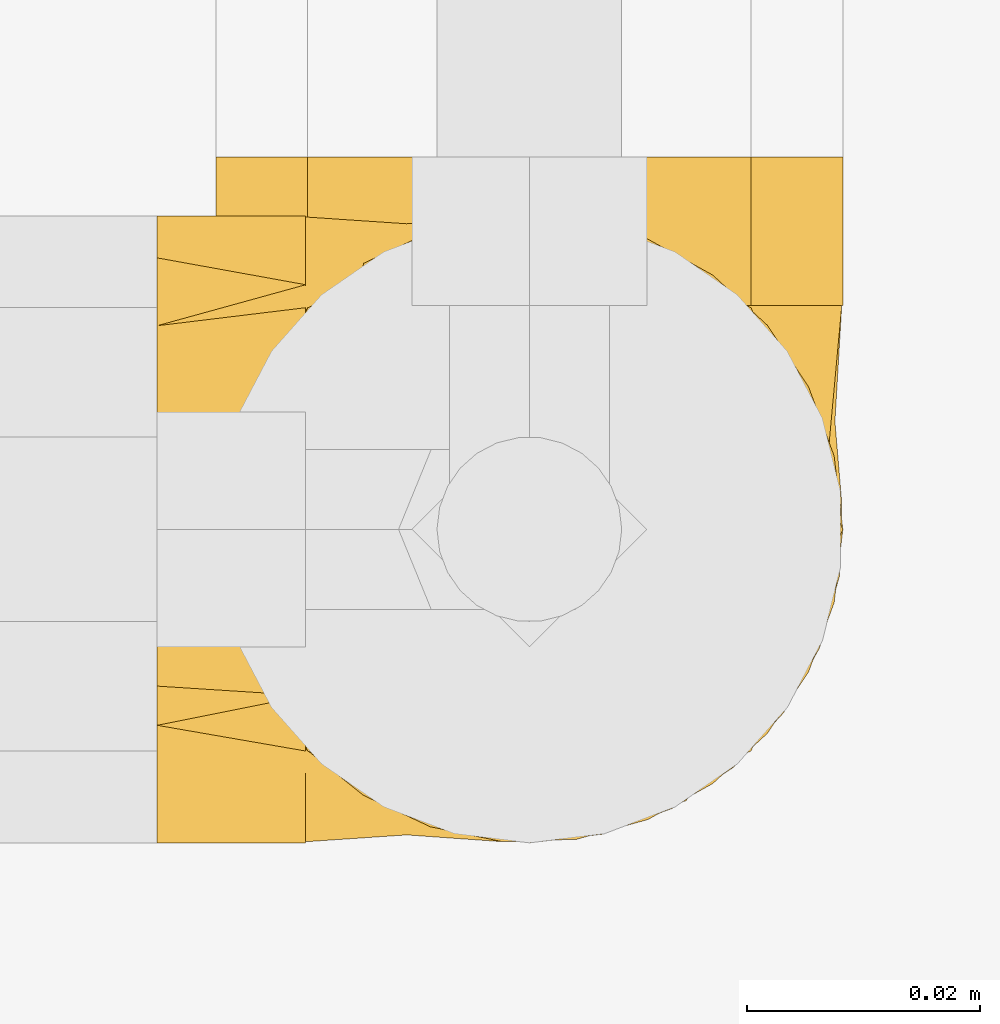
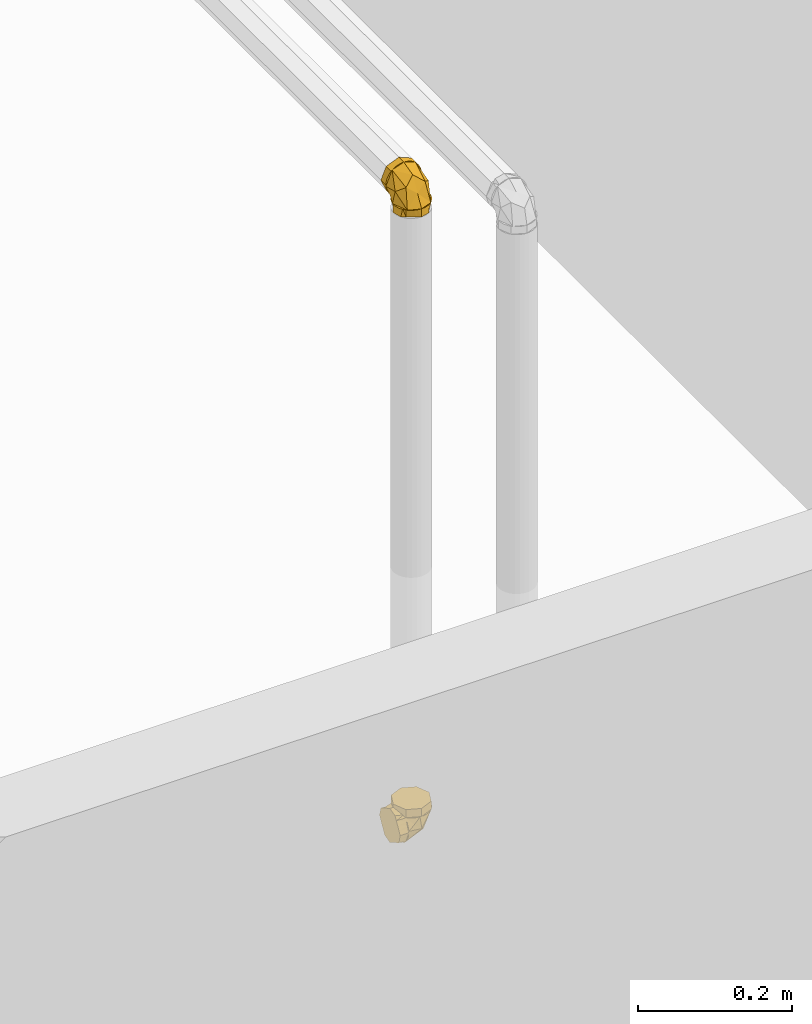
# One storey, part 356 of 652: 2 coverings.
"""IFC2X3 building model written with IfcOpenShell, lengths in millimetres."""

from ifc_helpers import new_model, entity, si_unit, converted_unit, direction, frame, origin, place, context, subcontext, project, spatial, face_set, surface_model, material, type_object, element, save


model = new_model("IFC2X3")

# Units and contexts
model_context = context("Model", 3, precision=0.01, world=frame((0.0, 0.0, 308426.39999999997)), true_north=direction((6.123233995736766e-17, 1.0)))
plan_context = context("Plan", 3, precision=0.01, world=frame((0.0, 0.0, 308426.39999999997)), true_north=direction((6.123233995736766e-17, 1.0)))
body_context = subcontext(model_context, "Body", "Model", "MODEL_VIEW")
ifc_project = project(units=[si_unit("LENGTHUNIT", "METRE", prefix="MILLI"), si_unit("AREAUNIT", "SQUARE_METRE"), si_unit("VOLUMEUNIT", "CUBIC_METRE"), converted_unit("PLANEANGLEUNIT", "DEGREE", entity("IfcPlaneAngleMeasure", 0.017453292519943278), si_unit("PLANEANGLEUNIT", "RADIAN"), dimensions=[0, 0, 0, 0, 0, 0, 0])], contexts=[model_context, plan_context])

# Site, building, storey
site_placement = place(None, origin())
site = spatial("IfcSite", under=ifc_project, at=site_placement, Name="Default", CompositionType="ELEMENT")
building_placement = place(site_placement, origin())
building = spatial("IfcBuilding", under=site, at=building_placement, CompositionType="ELEMENT")
storey_placement = place(building_placement, frame((0.0, 0.0, 1730.6999999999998)))
storey = spatial("IfcBuildingStorey", under=building, at=storey_placement, Name="EG_Produktion_FFB", CompositionType="ELEMENT", Elevation=1730.6999999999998)

# Coverings
ifc_material = material(Name="Dämmung - Armaflex-Schlauch")
covering_type = type_object("IfcCoveringType", Name="Rohrdämmung außen:Armaflex-Schlauch", PredefinedType="INSULATION")
covering_1_placement = place(storey_placement, frame((63571.46722776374, 31973.503785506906, 3668.0162499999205)))
element("IfcCovering", 1, at=covering_1_placement, inside=storey, type_object=covering_type, material=ifc_material, Name="Rohrdämmung außen:Armaflex-Schlauch", ObjectType="Rohrdämmung außen:Armaflex-Schlauch", PredefinedType="INSULATION", context=body_context, shape_type="SurfaceModel", body=[
    surface_model("IfcFaceBasedSurfaceModel", [(9.65642195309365, 47.75027223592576, 12.766249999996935), (51.38658262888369, 47.75027223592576, 17.724287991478), (54.0915642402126, 47.75027223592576, 23.47627931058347), (55.37345654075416, 47.75027223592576, 29.70195853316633), (55.16088498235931, 47.7502722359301, 36.05468574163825), (53.465685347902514, 47.7502722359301, 42.180747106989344), (50.38224474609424, 47.7502722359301, 47.739049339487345), (46.08224622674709, 47.7502722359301, 52.42011143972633), (40.8051096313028, 47.7502722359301, 55.96329630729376), (34.844660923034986, 47.7502722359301, 58.17132276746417), (28.532772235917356, 47.7502722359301, 58.92124999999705), (22.220883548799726, 47.7502722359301, 58.17132276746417), (16.26043484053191, 47.7502722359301, 55.96329630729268), (10.983298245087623, 47.7502722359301, 52.42011143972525), (6.683299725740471, 47.7502722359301, 47.739049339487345), (3.599859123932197, 47.7502722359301, 42.180747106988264), (1.904659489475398, 47.7502722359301, 36.05468574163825), (1.6920879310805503, 47.75027223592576, 29.70195853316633), (2.973980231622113, 47.75027223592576, 23.47627931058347), (5.678961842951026, 47.75027223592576, 17.72428799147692), (47.409122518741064, 47.75027223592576, 12.766249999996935), (51.38658262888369, 42.79223424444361, 12.766249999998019), (54.0915642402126, 37.04024292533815, 12.766249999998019), (55.37345654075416, 30.81456370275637, 12.7662499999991), (55.16088498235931, 24.461836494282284, 12.766250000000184), (53.465685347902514, 18.33577512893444, 12.766250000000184), (50.38224474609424, 12.77747289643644, 12.766250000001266), (46.08224622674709, 8.09641079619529, 12.766250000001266), (40.8051096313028, 4.553225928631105, 12.76625000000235), (34.844660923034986, 2.3451994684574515, 12.76625000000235), (28.532772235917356, 1.5952722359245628, 12.76625000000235), (22.220883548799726, 2.3451994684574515, 12.76625000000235), (16.26043484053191, 4.553225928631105, 12.76625000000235), (10.983298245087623, 8.09641079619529, 12.766250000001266), (6.683299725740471, 12.77747289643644, 12.766250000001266), (3.599859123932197, 18.33577512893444, 12.766250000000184), (1.904659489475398, 24.461836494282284, 12.766250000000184), (1.6920879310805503, 30.81456370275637, 12.7662499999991), (2.973980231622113, 37.04024292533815, 12.766249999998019), (5.678961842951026, 42.79223424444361, 12.766249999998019), (2.2755578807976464, 37.80739613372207, 21.44709533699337), (28.534420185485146, 24.67331410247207, 52.737627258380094), (6.335775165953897, 47.75097523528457, 41.06101440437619), (3.6010583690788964, 26.949919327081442, 33.56554168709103), (14.284127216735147, 17.331901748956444, 41.841780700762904), (28.534420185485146, 12.139195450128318, 31.030231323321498), (6.335775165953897, 19.455027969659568, 12.766229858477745), (42.780062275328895, 17.331901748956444, 41.841780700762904), (53.4677820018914, 26.95224476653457, 33.56554168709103), (54.788631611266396, 37.80739613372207, 21.44709533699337), (50.72841432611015, 19.455027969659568, 12.766229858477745), (50.72841432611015, 47.75097523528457, 41.06101440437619), (28.532772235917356, 60.51652223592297, 58.92125000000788), (33.29469446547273, 60.516522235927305, 56.94879722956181), (38.05661669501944, 60.516522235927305, 54.97634445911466), (42.818538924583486, 60.51652223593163, 53.0038916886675), (47.5804611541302, 60.51652223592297, 51.03143891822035), (49.552913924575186, 60.516522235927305, 46.26951668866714), (51.525366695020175, 60.516522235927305, 41.50759445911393), (53.497819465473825, 60.516522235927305, 36.74567222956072), (55.47027223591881, 60.516522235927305, 31.98375000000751), (53.49781946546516, 60.516522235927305, 27.2218277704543), (51.525366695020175, 60.516522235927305, 22.45990554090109), (49.552913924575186, 60.516522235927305, 17.69798331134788), (47.5804611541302, 60.51652223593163, 12.936061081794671), (42.81853892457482, 60.51652223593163, 10.963608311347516), (38.05661669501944, 60.51652223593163, 8.991155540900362), (33.29469446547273, 60.51652223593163, 7.018702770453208), (28.532772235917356, 60.51652223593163, 5.046250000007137), (23.77085000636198, 60.51652223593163, 7.018702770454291), (19.008927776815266, 60.51652223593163, 8.991155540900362), (14.247005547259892, 60.516522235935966, 10.963608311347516), (9.485083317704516, 60.51652223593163, 12.936061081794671), (7.512630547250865, 60.516522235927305, 17.69798331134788), (5.54017777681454, 60.516522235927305, 22.45990554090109), (3.567725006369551, 60.51652223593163, 27.2218277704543), (1.5952722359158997, 60.516522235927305, 31.98375000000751), (3.567725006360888, 60.516522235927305, 36.74567222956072), (5.54017777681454, 60.516522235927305, 41.50759445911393), (7.512630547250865, 60.51652223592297, 46.26951668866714), (9.485083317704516, 60.51652223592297, 51.03143891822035), (14.247005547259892, 60.516522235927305, 53.0038916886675), (19.008927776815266, 60.516522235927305, 54.97634445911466), (23.77085000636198, 60.51652223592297, 56.94879722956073), (28.532772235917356, 47.750272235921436, 58.92125000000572), (23.77085000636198, 47.750272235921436, 56.94879722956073), (19.008927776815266, 47.750272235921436, 54.97634445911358), (14.247005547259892, 47.7502722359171, 53.00389168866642), (9.485083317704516, 47.750272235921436, 51.031438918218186), (7.095738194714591, 47.750272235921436, 45.26304951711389), (4.706393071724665, 47.750272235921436, 39.49466011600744), (1.5952722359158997, 47.75027223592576, 31.983750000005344), (3.567725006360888, 47.75027223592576, 27.221827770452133), (5.54017777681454, 47.75027223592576, 22.459905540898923), (7.512630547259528, 47.7502722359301, 17.697983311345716), (9.485083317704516, 47.7502722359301, 12.936061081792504), (15.253472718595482, 47.7502722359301, 10.546715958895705), (21.021862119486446, 47.7502722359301, 8.157370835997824), (28.532772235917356, 47.7502722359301, 5.046250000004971), (33.29469446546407, 47.7502722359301, 7.018702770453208), (38.05661669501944, 47.7502722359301, 8.991155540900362), (42.818538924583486, 47.7502722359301, 10.963608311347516), (47.5804611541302, 47.7502722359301, 12.936061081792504), (49.96980627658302, 47.7502722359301, 18.704450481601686), (52.359151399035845, 47.75027223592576, 24.472839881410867), (55.47027223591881, 47.75027223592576, 31.983750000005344), (53.497819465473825, 47.75027223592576, 36.74567222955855), (51.525366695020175, 47.75027223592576, 41.507594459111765), (49.552913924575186, 47.750272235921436, 46.26951668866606), (47.5804611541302, 47.750272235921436, 51.031438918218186), (41.81207177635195, 47.750272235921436, 53.420784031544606), (36.0436823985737, 47.750272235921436, 55.81012914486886), (28.532772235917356, 1.5952722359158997, 0.0), (22.700632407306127, 4.962459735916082, 0.0), (16.868492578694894, 8.329647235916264, 0.0), (11.036352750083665, 11.696834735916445, 0.0), (5.204212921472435, 15.064022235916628, 0.0), (3.3997425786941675, 21.79839723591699, 0.0), (1.5952722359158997, 28.532772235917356, 0.0), (4.962459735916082, 34.36491206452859, 0.0), (8.329647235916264, 40.197051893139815, 0.0), (11.696834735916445, 46.02919172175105, 0.0), (15.064022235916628, 51.86133155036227, 0.0), (21.79839723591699, 53.66580189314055, 0.0), (28.532772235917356, 55.47027223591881, 0.0), (34.36491206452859, 52.10308473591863, 0.0), (40.197051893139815, 48.73589723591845, 0.0), (46.02919172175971, 45.368709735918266, 0.0), (51.86133155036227, 42.00152223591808, 0.0), (53.66580189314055, 35.26714723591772, 0.0), (55.47027223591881, 28.532772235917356, 0.0), (52.10308473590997, 22.700632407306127, 0.0), (48.73589723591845, 16.868492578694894, 0.0), (45.36870973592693, 11.036352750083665, 0.0), (42.00152223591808, 5.204212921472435, 0.0), (35.26714723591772, 3.3997425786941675, 0.0), (28.532772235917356, 1.5952722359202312, 12.7662499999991), (33.29469446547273, 3.567725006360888, 12.7662499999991), (38.05661669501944, 5.540177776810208, 12.7662499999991), (42.81853892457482, 7.512630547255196, 12.7662499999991), (47.5804611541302, 9.485083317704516, 12.7662499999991), (49.552913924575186, 14.24700554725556, 12.7662499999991), (51.525366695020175, 19.008927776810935, 12.7662499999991), (53.497819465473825, 23.77085000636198, 12.7662499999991), (55.47027223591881, 28.532772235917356, 12.7662499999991), (53.497819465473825, 33.29469446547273, 12.7662499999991), (51.525366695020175, 38.05661669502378, 12.7662499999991), (49.55291392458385, 42.81853892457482, 12.7662499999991), (47.5804611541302, 47.5804611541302, 12.7662499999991), (42.81853892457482, 49.552913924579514, 12.7662499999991), (38.05661669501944, 51.5253666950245, 12.7662499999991), (33.29469446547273, 53.497819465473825, 12.7662499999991), (28.532772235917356, 55.47027223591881, 12.7662499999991), (23.770850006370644, 53.497819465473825, 12.7662499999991), (19.008927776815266, 51.5253666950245, 12.7662499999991), (14.247005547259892, 49.552913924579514, 12.7662499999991), (9.485083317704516, 47.5804611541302, 12.7662499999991), (7.512630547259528, 42.81853892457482, 12.7662499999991), (5.54017777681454, 38.05661669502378, 12.7662499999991), (3.567725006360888, 33.29469446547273, 12.7662499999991), (1.5952722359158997, 28.532772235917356, 12.7662499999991), (3.567725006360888, 23.77085000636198, 12.7662499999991), (5.54017777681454, 19.008927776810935, 12.7662499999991), (7.512630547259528, 14.24700554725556, 12.7662499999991), (9.485083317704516, 9.485083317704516, 12.7662499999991), (14.247005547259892, 7.512630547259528, 12.7662499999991), (19.008927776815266, 5.540177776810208, 12.7662499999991), (23.77085000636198, 3.567725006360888, 12.7662499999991)], [face_set([[[0, 1, 2, 3, 4, 5, 6, 7, 8, 9, 10, 11, 12, 13, 14, 15, 16, 17, 18, 19]], [[20, 21, 22, 23, 24, 25, 26, 27, 28, 29, 30, 31, 32, 33, 34, 35, 36, 37, 38, 39]], [[0, 40, 17]], [[10, 13, 41]], [[42, 17, 43]], [[40, 43, 17]], [[37, 40, 0]], [[13, 43, 44]], [[45, 41, 44]], [[13, 44, 41]], [[33, 30, 45]], [[45, 44, 33]], [[43, 33, 44]], [[43, 37, 46]], [[43, 13, 42]], [[37, 43, 40]], [[46, 33, 43]], [[7, 10, 41]], [[27, 47, 45]], [[45, 30, 27]], [[48, 47, 27]], [[49, 48, 23]], [[50, 23, 48, 27]], [[45, 47, 41]], [[20, 49, 23]], [[47, 48, 7]], [[3, 49, 20]], [[41, 47, 7]], [[48, 3, 51, 7]], [[3, 48, 49]]]), face_set([[[52, 53, 54, 55, 56, 57, 58, 59, 60, 61, 62, 63, 64, 65, 66, 67, 68, 69, 70, 71, 72, 73, 74, 75, 76, 77, 78, 79, 80, 81, 82, 83]], [[84, 85, 86, 87, 88, 89, 90, 91, 92, 93, 94, 95, 96, 97, 98, 99, 100, 101, 102, 103, 104, 105, 106, 107, 108, 109, 110, 111]], [[111, 110, 109, 56, 55, 54, 53, 52, 84]], [[56, 109, 108, 107, 106, 105, 60, 59, 58, 57]], [[104, 103, 102, 64, 63, 62, 61, 60, 105]], [[64, 102, 101, 100, 99, 98, 68, 67, 66, 65]], [[97, 96, 95, 72, 71, 70, 69, 68, 98]], [[72, 95, 94, 93, 92, 91, 76, 75, 74, 73]], [[90, 89, 88, 80, 79, 78, 77, 76, 91]], [[80, 88, 87, 86, 85, 84, 52, 83, 82, 81]]]), face_set([[[112, 113, 114, 115, 116, 117, 118, 119, 120, 121, 122, 123, 124, 125, 126, 127, 128, 129, 130, 131, 132, 133, 134, 135]], [[136, 137, 138, 139, 140, 141, 142, 143, 144, 145, 146, 147, 148, 149, 150, 151, 152, 153, 154, 155, 156, 157, 158, 159, 160, 161, 162, 163, 164, 165, 166, 167]], [[155, 121, 156]], [[118, 159, 119]], [[159, 158, 119]], [[123, 154, 153]], [[153, 152, 124]], [[121, 155, 122]], [[120, 158, 157]], [[118, 160, 159]], [[158, 120, 119]], [[124, 123, 153]], [[157, 156, 121]], [[155, 154, 122]], [[123, 122, 154]], [[120, 157, 121]], [[163, 115, 164]], [[112, 167, 113]], [[167, 166, 113]], [[117, 162, 161]], [[161, 160, 118]], [[115, 163, 116]], [[114, 166, 165]], [[112, 136, 167]], [[166, 114, 113]], [[118, 117, 161]], [[165, 164, 115]], [[163, 162, 116]], [[117, 116, 162]], [[114, 165, 115]], [[139, 133, 140]], [[130, 143, 131]], [[143, 142, 131]], [[135, 138, 137]], [[137, 136, 112]], [[133, 139, 134]], [[132, 142, 141]], [[130, 144, 143]], [[142, 132, 131]], [[112, 135, 137]], [[141, 140, 133]], [[139, 138, 134]], [[135, 134, 138]], [[132, 141, 133]], [[147, 127, 148]], [[124, 151, 125]], [[151, 150, 125]], [[129, 146, 145]], [[145, 144, 130]], [[127, 147, 128]], [[126, 150, 149]], [[124, 152, 151]], [[150, 126, 125]], [[130, 129, 145]], [[149, 148, 127]], [[147, 146, 128]], [[129, 128, 146]], [[126, 149, 127]]])]),
])
covering_2_placement = place(storey_placement, frame((63568.016249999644, 31973.503785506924, 2671.467227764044)))
element("IfcCovering", 2, at=covering_2_placement, inside=storey, type_object=covering_type, material=ifc_material, Name="Rohrdämmung außen:Armaflex-Schlauch", ObjectType="Rohrdämmung außen:Armaflex-Schlauch", PredefinedType="INSULATION", context=body_context, shape_type="SurfaceModel", body=[
    surface_model("IfcFaceBasedSurfaceModel", [(12.766249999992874, 9.65642195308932, 47.750272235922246), (17.724287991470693, 5.678961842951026, 47.750272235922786), (23.47627931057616, 2.973980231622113, 47.750272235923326), (29.70195853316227, 1.6920879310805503, 47.75027223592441), (36.054685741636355, 1.9046594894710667, 47.75027223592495), (42.1807471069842, 3.5998591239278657, 47.75027223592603), (47.7390493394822, 6.683299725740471, 47.75027223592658), (52.420111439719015, 10.983298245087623, 47.75027223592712), (55.963296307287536, 16.26043484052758, 47.75027223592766), (58.17132276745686, 22.220883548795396, 47.75027223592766), (58.921249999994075, 28.532772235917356, 47.75027223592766), (58.17132276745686, 34.84466092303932, 47.75027223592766), (55.963296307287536, 40.80510963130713, 47.75027223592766), (52.420111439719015, 46.08224622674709, 47.75027223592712), (47.7390493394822, 50.38224474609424, 47.75027223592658), (42.1807471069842, 53.46568534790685, 47.75027223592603), (36.054685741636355, 55.16088498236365, 47.75027223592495), (29.70195853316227, 55.37345654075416, 47.75027223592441), (23.47627931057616, 54.0915642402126, 47.750272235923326), (17.724287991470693, 51.38658262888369, 47.750272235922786), (12.766249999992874, 47.40912251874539, 47.750272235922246), (12.766249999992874, 51.38658262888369, 42.79223424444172), (12.766249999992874, 54.0915642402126, 37.04024292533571), (12.766249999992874, 55.37345654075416, 30.81456370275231), (12.766249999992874, 55.16088498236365, 24.46183649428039), (12.766249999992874, 53.46568534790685, 18.33577512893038), (12.766249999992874, 50.38224474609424, 12.777472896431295), (12.766250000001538, 46.08224622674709, 8.096410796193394), (12.766250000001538, 40.80510963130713, 4.553225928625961), (12.766250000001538, 34.84466092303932, 2.3451994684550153), (12.766250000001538, 28.532772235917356, 1.5952722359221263), (12.766250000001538, 22.220883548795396, 2.3451994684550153), (12.766250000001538, 16.26043484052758, 4.553225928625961), (12.766250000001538, 10.983298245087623, 8.096410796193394), (12.766249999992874, 6.683299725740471, 12.777472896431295), (12.766249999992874, 3.5998591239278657, 18.33577512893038), (12.766249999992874, 1.9046594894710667, 24.46183649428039), (12.766249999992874, 1.6920879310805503, 30.81456370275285), (12.766249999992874, 2.973980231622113, 37.04024292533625), (12.766249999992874, 5.678961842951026, 42.79223424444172), (21.446506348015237, 2.277006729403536, 37.807400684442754), (52.73761962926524, 28.533543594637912, 24.672737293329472), (33.56669677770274, 3.600181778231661, 26.951086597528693), (41.059262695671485, 6.337224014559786, 47.75039842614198), (31.031967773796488, 28.533543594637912, 12.139781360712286), (41.84061035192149, 14.285576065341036, 17.332487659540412), (12.767966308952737, 6.337224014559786, 19.455613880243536), (41.84061035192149, 42.77918568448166, 17.332487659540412), (33.56669677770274, 53.464579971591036, 26.951086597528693), (21.446506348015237, 54.790080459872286, 37.807400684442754), (12.767966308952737, 50.72753773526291, 19.455613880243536), (41.059262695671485, 50.72753773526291, 47.75039842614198), (58.921250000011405, 28.532772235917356, 60.5165222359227), (56.948797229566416, 33.29469446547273, 60.51652223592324), (54.97634445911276, 38.05661669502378, 60.51652223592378), (53.00389168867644, 42.81853892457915, 60.51652223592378), (51.03143891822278, 47.5804611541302, 60.51652223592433), (46.26951668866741, 49.552913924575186, 60.51652223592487), (41.507594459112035, 51.5253666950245, 60.51652223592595), (36.74567222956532, 53.497819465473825, 60.51652223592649), (31.983750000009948, 55.47027223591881, 60.516522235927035), (27.22182777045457, 53.49781946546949, 60.516522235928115), (22.459905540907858, 51.5253666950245, 60.516522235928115), (17.697983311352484, 49.552913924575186, 60.516522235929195), (12.936061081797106, 47.5804611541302, 60.51652223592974), (10.963608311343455, 42.81853892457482, 60.51652223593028), (8.99115554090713, 38.05661669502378, 60.51652223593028), (7.018702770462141, 33.29469446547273, 60.51652223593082), (5.046250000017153, 28.532772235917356, 60.51652223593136), (7.018702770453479, 23.77085000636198, 60.51652223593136), (8.99115554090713, 19.008927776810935, 60.51652223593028), (10.963608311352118, 14.247005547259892, 60.51652223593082), (12.936061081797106, 9.485083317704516, 60.51652223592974), (17.69798331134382, 7.512630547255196, 60.516522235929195), (22.459905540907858, 5.540177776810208, 60.516522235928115), (27.221827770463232, 3.5677250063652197, 60.516522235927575), (31.983750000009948, 1.5952722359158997, 60.516522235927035), (36.74567222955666, 3.567725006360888, 60.51652223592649), (41.507594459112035, 5.540177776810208, 60.51652223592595), (46.26951668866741, 7.512630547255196, 60.51652223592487), (51.03143891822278, 9.485083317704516, 60.51652223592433), (53.00389168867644, 14.247005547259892, 60.51652223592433), (54.97634445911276, 19.008927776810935, 60.51652223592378), (56.94879722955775, 23.77085000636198, 60.5165222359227), (58.92125000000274, 28.532772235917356, 47.75027223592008), (56.94879722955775, 23.77085000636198, 47.750272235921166), (54.97634445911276, 19.008927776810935, 47.750272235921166), (53.00389168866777, 14.24700554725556, 47.750272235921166), (51.03143891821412, 9.485083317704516, 47.750272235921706), (45.26304951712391, 7.095738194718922, 47.750272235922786), (39.49466011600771, 4.706393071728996, 47.750272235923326), (31.983750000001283, 1.5952722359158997, 47.75027223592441), (27.22182777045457, 3.5677250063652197, 47.75027223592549), (22.459905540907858, 5.540177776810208, 47.75027223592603), (17.697983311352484, 7.512630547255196, 47.75027223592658), (12.936061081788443, 9.485083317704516, 47.75027223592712), (10.546715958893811, 15.253472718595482, 47.75027223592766), (8.157370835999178, 21.021862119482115, 47.7502722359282), (5.046250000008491, 28.532772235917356, 47.75027223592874), (7.018702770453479, 33.2946944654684, 47.75027223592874), (8.99115554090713, 38.05661669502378, 47.7502722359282), (10.963608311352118, 42.81853892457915, 47.75027223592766), (12.936061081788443, 47.5804611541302, 47.75027223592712), (18.704450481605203, 49.96980627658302, 47.75027223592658), (24.472839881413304, 52.35915139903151, 47.75027223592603), (31.983750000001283, 55.47027223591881, 47.75027223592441), (36.74567222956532, 53.49781946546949, 47.75027223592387), (41.507594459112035, 51.5253666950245, 47.750272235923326), (46.26951668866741, 49.552913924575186, 47.750272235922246), (51.03143891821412, 47.5804611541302, 47.750272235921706), (53.420784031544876, 41.81207177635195, 47.750272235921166), (55.81012914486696, 36.0436823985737, 47.750272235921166), (0.0, 28.532772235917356, 1.5952722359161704), (0.0, 22.700632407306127, 4.962459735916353), (0.0, 16.868492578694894, 8.329647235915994), (0.0, 11.036352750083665, 11.696834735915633), (0.0, 5.204212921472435, 15.064022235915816), (0.0, 3.3997425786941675, 21.798397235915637), (0.0, 1.5952722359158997, 28.532772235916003), (0.0, 4.962459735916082, 34.36491206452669), (0.0, 8.329647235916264, 40.19705189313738), (0.0, 11.696834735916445, 46.02919172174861), (0.0, 15.064022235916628, 51.861331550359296), (0.0, 21.79839723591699, 53.66580189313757), (0.0, 28.532772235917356, 55.470272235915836), (0.0, 34.364912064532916, 52.10308473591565), (0.0, 40.197051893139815, 48.73589723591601), (0.0, 46.029191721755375, 45.36870973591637), (0.0, 51.86133155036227, 42.00152223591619), (0.0, 53.66580189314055, 35.26714723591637), (0.0, 55.47027223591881, 28.532772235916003), (0.0, 52.1030847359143, 22.700632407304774), (0.0, 48.73589723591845, 16.868492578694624), (0.0, 45.3687097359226, 11.036352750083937), (0.0, 42.00152223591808, 5.204212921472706), (0.0, 35.26714723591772, 3.3997425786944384), (12.766250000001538, 28.532772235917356, 1.5952722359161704), (12.766250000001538, 33.29469446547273, 3.567725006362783), (12.766250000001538, 38.05661669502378, 5.540177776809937), (12.766249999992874, 42.81853892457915, 7.512630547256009), (12.766250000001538, 47.5804611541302, 9.485083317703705), (12.766250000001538, 49.552913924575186, 14.247005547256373), (12.766250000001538, 51.5253666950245, 19.008927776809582), (12.766250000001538, 53.497819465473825, 23.770850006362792), (12.766250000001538, 55.47027223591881, 28.532772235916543), (12.766250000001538, 53.497819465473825, 33.29469446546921), (12.766250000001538, 51.5253666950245, 38.05661669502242), (12.766250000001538, 49.552913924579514, 42.818538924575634), (12.766250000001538, 47.5804611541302, 47.58046115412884), (12.766250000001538, 42.81853892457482, 49.552913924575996), (12.766250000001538, 38.05661669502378, 51.525366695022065), (12.766250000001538, 33.29469446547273, 53.49781946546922), (12.766250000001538, 28.532772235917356, 55.470272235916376), (12.766250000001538, 23.770850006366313, 53.49781946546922), (12.766250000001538, 19.008927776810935, 51.525366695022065), (12.766250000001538, 14.24700554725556, 49.552913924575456), (12.766250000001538, 9.485083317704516, 47.58046115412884), (12.766250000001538, 7.512630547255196, 42.818538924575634), (12.766250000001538, 5.540177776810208, 38.05661669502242), (12.766250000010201, 3.5677250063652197, 33.29469446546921), (12.766250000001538, 1.5952722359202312, 28.532772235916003), (12.766250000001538, 3.5677250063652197, 23.770850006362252), (12.766250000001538, 5.540177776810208, 19.008927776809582), (12.766249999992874, 7.512630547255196, 14.247005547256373), (12.766250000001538, 9.485083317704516, 9.485083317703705), (12.766250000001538, 14.247005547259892, 7.51263054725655), (12.766250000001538, 19.008927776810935, 5.540177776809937), (12.766249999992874, 23.77085000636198, 3.567725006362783)], [face_set([[[0, 1, 2, 3, 4, 5, 6, 7, 8, 9, 10, 11, 12, 13, 14, 15, 16, 17, 18, 19]], [[20, 21, 22, 23, 24, 25, 26, 27, 28, 29, 30, 31, 32, 33, 34, 35, 36, 37, 38, 39]], [[0, 40, 3]], [[10, 7, 41]], [[37, 42, 40]], [[42, 7, 43]], [[37, 40, 0]], [[3, 40, 42]], [[44, 41, 45]], [[7, 45, 41]], [[33, 30, 44]], [[44, 45, 33]], [[42, 33, 45]], [[42, 37, 46]], [[7, 42, 45]], [[43, 3, 42]], [[46, 33, 42]], [[13, 10, 41]], [[27, 47, 44]], [[44, 30, 27]], [[48, 47, 27]], [[49, 48, 23]], [[48, 50, 23]], [[44, 47, 41]], [[20, 49, 23]], [[47, 48, 13]], [[17, 49, 20]], [[41, 47, 13]], [[48, 17, 51]], [[48, 27, 50]], [[17, 48, 49]], [[51, 13, 48]]]), face_set([[[52, 53, 54, 55, 56, 57, 58, 59, 60, 61, 62, 63, 64, 65, 66, 67, 68, 69, 70, 71, 72, 73, 74, 75, 76, 77, 78, 79, 80, 81, 82, 83]], [[84, 85, 86, 87, 88, 89, 90, 91, 92, 93, 94, 95, 96, 97, 98, 99, 100, 101, 102, 103, 104, 105, 106, 107, 108, 109, 110, 111]], [[111, 110, 109, 56, 55, 54, 53, 52, 84]], [[56, 109, 108, 107, 106, 105, 60, 59, 58, 57]], [[104, 103, 102, 64, 63, 62, 61, 60, 105]], [[64, 102, 101, 100, 99, 98, 68, 67, 66, 65]], [[97, 96, 95, 72, 71, 70, 69, 68, 98]], [[72, 95, 94, 93, 92, 91, 76, 75, 74, 73]], [[90, 89, 88, 80, 79, 78, 77, 76, 91]], [[80, 88, 87, 86, 85, 84, 52, 83, 82, 81]]]), face_set([[[112, 113, 114, 115, 116, 117, 118, 119, 120, 121, 122, 123, 124, 125, 126, 127, 128, 129, 130, 131, 132, 133, 134, 135]], [[136, 137, 138, 139, 140, 141, 142, 143, 144, 145, 146, 147, 148, 149, 150, 151, 152, 153, 154, 155, 156, 157, 158, 159, 160, 161, 162, 163, 164, 165, 166, 167]], [[155, 121, 156]], [[118, 159, 119]], [[159, 158, 119]], [[123, 154, 153]], [[153, 152, 124]], [[121, 155, 122]], [[120, 158, 157]], [[118, 160, 159]], [[158, 120, 119]], [[124, 123, 153]], [[157, 156, 121]], [[155, 154, 122]], [[123, 122, 154]], [[120, 157, 121]], [[163, 115, 164]], [[112, 167, 113]], [[167, 166, 113]], [[117, 162, 161]], [[161, 160, 118]], [[115, 163, 116]], [[114, 166, 165]], [[112, 136, 167]], [[166, 114, 113]], [[118, 117, 161]], [[165, 164, 115]], [[163, 162, 116]], [[117, 116, 162]], [[114, 165, 115]], [[139, 133, 140]], [[130, 143, 131]], [[143, 142, 131]], [[135, 138, 137]], [[137, 136, 112]], [[133, 139, 134]], [[132, 142, 141]], [[130, 144, 143]], [[142, 132, 131]], [[112, 135, 137]], [[141, 140, 133]], [[139, 138, 134]], [[135, 134, 138]], [[132, 141, 133]], [[147, 127, 148]], [[124, 151, 125]], [[151, 150, 125]], [[129, 146, 145]], [[145, 144, 130]], [[127, 147, 128]], [[126, 150, 149]], [[124, 152, 151]], [[150, 126, 125]], [[130, 129, 145]], [[149, 148, 127]], [[147, 146, 128]], [[129, 128, 146]], [[126, 149, 127]]])]),
])

save(model, "model.ifc")
